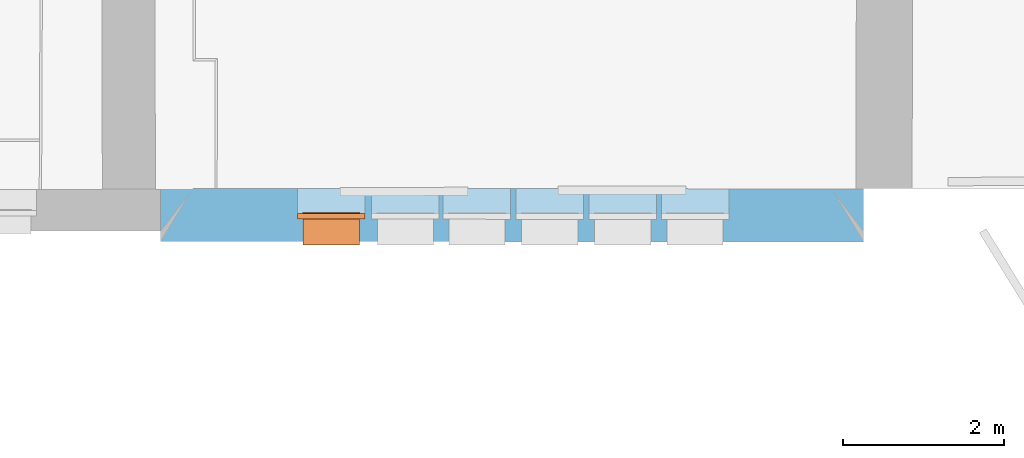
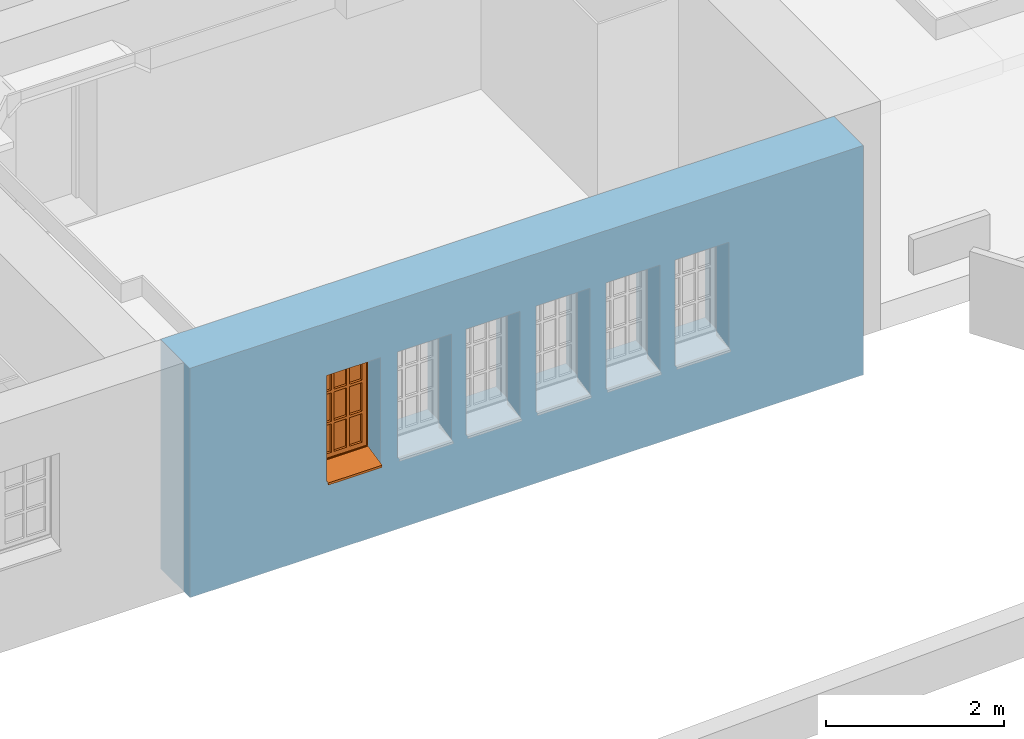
# One storey, part 81 of 196: 1 proxy, 6 openings, plus 1 element that does not belong to this part.
"""IFC2X3 building model written with IfcOpenShell, lengths in metres."""

from ifc_helpers import new_model, entity, si_unit, converted_unit, derived_unit, money_unit, direction, frame, origin_with_axes, origin_2d_with_axis, place, context, subcontext, project, spatial, polyline, rectangle, outline, extrude, boolean, open_shell, faceted_brep, surface_model, material, type_object, element, fill, save


model = new_model("IFC2X3")

# Units and contexts
model_context = context("Model", 3, precision=1e-05, world=origin_with_axes(), true_north=direction((0.0, 1.0)))
body_context = subcontext(model_context, "Body", "Model", "MODEL_VIEW")
ifc_project = project(units=[si_unit("LENGTHUNIT", "METRE"), si_unit("AREAUNIT", "SQUARE_METRE"), si_unit("VOLUMEUNIT", "CUBIC_METRE"), converted_unit("PLANEANGLEUNIT", "DEGREE", entity("IfcPlaneAngleMeasure", 0.0174532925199), si_unit("PLANEANGLEUNIT", "RADIAN"), dimensions=[0, 0, 0, 0, 0, 0, 0]), money_unit("EUR"), converted_unit("TIMEUNIT", "Year", entity("IfcTimeMeasure", 31556926.0), si_unit("TIMEUNIT", "SECOND"), dimensions=[0, 0, 1, 0, 0, 0, 0]), si_unit("MASSUNIT", "GRAM", prefix="KILO"), si_unit("THERMODYNAMICTEMPERATUREUNIT", "DEGREE_CELSIUS"), si_unit("LUMINOUSINTENSITYUNIT", "LUMEN"), si_unit("ENERGYUNIT", "JOULE", prefix="MEGA"), derived_unit("THERMALCONDUCTANCEUNIT", [(si_unit("POWERUNIT", "WATT"), 1), (si_unit("LENGTHUNIT", "METRE"), -1), (si_unit("THERMODYNAMICTEMPERATUREUNIT", "KELVIN"), -1)]), derived_unit("SPECIFICHEATCAPACITYUNIT", [(si_unit("ENERGYUNIT", "JOULE"), 1), (si_unit("MASSUNIT", "GRAM", prefix="KILO"), -1), (si_unit("THERMODYNAMICTEMPERATUREUNIT", "KELVIN"), -1)]), derived_unit("MASSDENSITYUNIT", [(si_unit("MASSUNIT", "GRAM", prefix="KILO"), 1), (si_unit("VOLUMEUNIT", "CUBIC_METRE"), -1)])], contexts=[model_context])

# Site, building, storey
site_placement = place(None, origin_with_axes())
site = spatial("IfcSite", under=ifc_project, at=site_placement, Name="Gelände", CompositionType="ELEMENT")
building_placement = place(site_placement, origin_with_axes())
building = spatial("IfcBuilding", under=site, at=building_placement, Name="Gebäude", CompositionType="ELEMENT")
storey_placement = place(building_placement, frame((0.0, 0.0, -3.0), z_axis=(0.0, 0.0, 1.0), x_axis=(1.0, 0.0, 0.0)))
storey = spatial("IfcBuildingStorey", under=building, at=storey_placement, Name="KELLERGESCHOSS", CompositionType="ELEMENT", Elevation=-3.0)

# Wall, openings, proxy
ifc_material = material(Name="05_ALLGEMEIN - TRAGENDE BAUTEILE")
wall_type = type_object("IfcWallType", Name="05_ALLGEMEIN - TRAGENDE BAUTEILE 660", PredefinedType="ELEMENTEDWALL")
wall_placement = place(storey_placement, frame((3.68030708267, 9.80941916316, -0.36), z_axis=(0.0, 0.0, 1.0), x_axis=(0.999999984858, -0.000174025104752, 0.0)))
wall = element("IfcWall", 1, at=wall_placement, inside=storey, type_object=wall_type, material=ifc_material, Name="Wand-032", ObjectType="ELEMENTEDWALL", context=body_context, shape_type="CSG", body=[
    boolean("DIFFERENCE", extrude(outline(polyline([(0.0, 0.0), (8.74672447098, 0.0), (8.74672447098, 0.66), (0.0, 0.66), (0.0, 0.0)])), origin_with_axes(), (0.0, 0.0, 1.0), 3.15), faceted_brep([(8.36400803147, 0.66, 3.15), (8.36400803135, 0.66, 3.065), (8.74672447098, 0.66, 3.065), (8.74672447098, 0.66, 0.0), (0.0, 0.66, 0.0), (0.0, 0.66, 3.15), (0.396377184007, 0.651638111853, 3.15), (0.396377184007, 0.651638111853, 0.0), (8.3467354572, 0.659981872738, 0.0), (8.3467354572, 0.659981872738, 3.065), (8.74672447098, 0.0, 3.065), (8.74672447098, 0.0, 0.0), (0.0, 0.0, 0.0), (0.0, 0.0, 3.15)], [[[0, 1, 2, 3, 4, 5]], [[1, 0, 6, 7, 8, 9]], [[10, 2, 1, 9]], [[10, 11, 3, 2]], [[7, 12, 4, 3, 11, 8]], [[12, 13, 5, 4]], [[6, 0, 5, 13]], [[6, 13, 12, 7]], [[11, 10, 9, 8]]])),
])
opening_1_placement = place(wall_placement, frame((6.65087656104, 0.0, 0.977921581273), z_axis=(0.0, 0.0, 1.0), x_axis=(1.0, 0.0, 0.0)))
element("IfcOpeningElement", 2, at=opening_1_placement, cuts=wall, Name="Fenster-015", context=body_context, shape_type="SweptSolid", body=[
    extrude(rectangle(XDim=0.840207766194, YDim=1.52470991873, at=origin_2d_with_axis()), frame((0.0, 0.28, 0.762354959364), z_axis=(0.0, -1.0, 0.0), x_axis=(1.0, 0.0, 0.0)), (0.0, 0.0, -1.0), 1.04),
    extrude(rectangle(XDim=0.700207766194, YDim=1.45470991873, at=origin_2d_with_axis()), frame((0.0, 0.28, 0.727354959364), z_axis=(0.0, 1.0, 0.0), x_axis=(1.0, 0.0, 0.0)), (0.0, 0.0, -1.0), 0.94),
])
opening_2_placement = place(wall_placement, frame((5.75227144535, 0.0, 0.977921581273), z_axis=(0.0, 0.0, 1.0), x_axis=(1.0, 0.0, 0.0)))
element("IfcOpeningElement", 3, at=opening_2_placement, cuts=wall, Name="Fenster-015", context=body_context, shape_type="SweptSolid", body=[
    extrude(rectangle(XDim=0.840207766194, YDim=1.52470991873, at=origin_2d_with_axis()), frame((0.0, 0.28, 0.762354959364), z_axis=(0.0, -1.0, 0.0), x_axis=(1.0, 0.0, 0.0)), (0.0, 0.0, -1.0), 1.04),
    extrude(rectangle(XDim=0.700207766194, YDim=1.45470991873, at=origin_2d_with_axis()), frame((0.0, 0.28, 0.727354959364), z_axis=(0.0, 1.0, 0.0), x_axis=(1.0, 0.0, 0.0)), (0.0, 0.0, -1.0), 0.94),
])
opening_3_placement = place(wall_placement, frame((2.12414616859, 0.0, 0.977921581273), z_axis=(0.0, 0.0, 1.0), x_axis=(1.0, 0.0, 0.0)))
opening_3 = element("IfcOpeningElement", 4, at=opening_3_placement, cuts=wall, Name="Fenster-015", context=body_context, shape_type="SweptSolid", body=[
    extrude(rectangle(XDim=0.840207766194, YDim=1.52470991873, at=origin_2d_with_axis()), frame((0.0, 0.28, 0.762354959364), z_axis=(0.0, -1.0, 0.0), x_axis=(1.0, 0.0, 0.0)), (0.0, 0.0, -1.0), 1.04),
    extrude(rectangle(XDim=0.700207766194, YDim=1.45470991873, at=origin_2d_with_axis()), frame((0.0, 0.28, 0.727354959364), z_axis=(0.0, 1.0, 0.0), x_axis=(1.0, 0.0, 0.0)), (0.0, 0.0, -1.0), 0.94),
])
opening_4_placement = place(wall_placement, frame((3.04781651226, 0.0, 0.977921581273), z_axis=(0.0, 0.0, 1.0), x_axis=(1.0, 0.0, 0.0)))
element("IfcOpeningElement", 5, at=opening_4_placement, cuts=wall, Name="Fenster-015", context=body_context, shape_type="SweptSolid", body=[
    extrude(rectangle(XDim=0.840207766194, YDim=1.52470991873, at=origin_2d_with_axis()), frame((0.0, 0.28, 0.762354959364), z_axis=(0.0, -1.0, 0.0), x_axis=(1.0, 0.0, 0.0)), (0.0, 0.0, -1.0), 1.04),
    extrude(rectangle(XDim=0.700207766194, YDim=1.45470991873, at=origin_2d_with_axis()), frame((0.0, 0.28, 0.727354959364), z_axis=(0.0, 1.0, 0.0), x_axis=(1.0, 0.0, 0.0)), (0.0, 0.0, -1.0), 0.94),
])
opening_5_placement = place(wall_placement, frame((3.9368208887, 0.0, 0.977921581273), z_axis=(0.0, 0.0, 1.0), x_axis=(1.0, 0.0, 0.0)))
element("IfcOpeningElement", 6, at=opening_5_placement, cuts=wall, Name="Fenster-015", context=body_context, shape_type="SweptSolid", body=[
    extrude(rectangle(XDim=0.840207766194, YDim=1.52470991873, at=origin_2d_with_axis()), frame((0.0, 0.28, 0.762354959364), z_axis=(0.0, -1.0, 0.0), x_axis=(1.0, 0.0, 0.0)), (0.0, 0.0, -1.0), 1.04),
    extrude(rectangle(XDim=0.700207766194, YDim=1.45470991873, at=origin_2d_with_axis()), frame((0.0, 0.28, 0.727354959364), z_axis=(0.0, 1.0, 0.0), x_axis=(1.0, 0.0, 0.0)), (0.0, 0.0, -1.0), 0.94),
])
opening_6_placement = place(wall_placement, frame((4.8431156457, 0.0, 0.977921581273), z_axis=(0.0, 0.0, 1.0), x_axis=(1.0, 0.0, 0.0)))
element("IfcOpeningElement", 7, at=opening_6_placement, cuts=wall, Name="Fenster-015", context=body_context, shape_type="SweptSolid", body=[
    extrude(rectangle(XDim=0.840207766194, YDim=1.52470991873, at=origin_2d_with_axis()), frame((0.0, 0.28, 0.762354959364), z_axis=(0.0, -1.0, 0.0), x_axis=(1.0, 0.0, 0.0)), (0.0, 0.0, -1.0), 1.04),
    extrude(rectangle(XDim=0.700207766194, YDim=1.45470991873, at=origin_2d_with_axis()), frame((0.0, 0.28, 0.727354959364), z_axis=(0.0, 1.0, 0.0), x_axis=(1.0, 0.0, 0.0)), (0.0, 0.0, -1.0), 0.94),
])
building_element_proxy_type = type_object("IfcBuildingElementProxyType", Name="1-Flügelfenster 25", PredefinedType="NOTDEFINED")
proxy_placement = place(opening_3_placement, frame((-0.420103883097, 0.0, 0.0), z_axis=(0.0, 0.0, 1.0), x_axis=(1.0, 0.0, 0.0)))
proxy = element("IfcBuildingElementProxy", 8, at=proxy_placement, inside=storey, type_object=building_element_proxy_type, Name="Fenster-015", context=body_context, shape_type="SurfaceModel", body=[
    surface_model("IfcShellBasedSurfaceModel", [(0.07, 0.279, 0.08), (0.07, 0.279, 0.07), (0.770207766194, 0.279, 0.07), (0.770207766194, 0.279, 0.08), (0.07, -0.04, 0.00142857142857), (0.770207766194, -0.04, 0.00142857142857), (0.07, -0.04, -0.0285714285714), (0.770207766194, -0.04, -0.0285714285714), (0.07, -0.025, -0.0135714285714), (0.770207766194, -0.025, -0.0135714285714)], [open_shell([[[0, 1, 2, 3]], [[1, 4, 5, 2]], [[4, 6, 7, 5]], [[6, 8, 9, 7]]])]),
    faceted_brep([(0.07, 0.28, 0.0689771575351), (0.07, 0.0, 0.00878906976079), (0.770207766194, 0.0, 0.00878906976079), (0.770207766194, 0.28, 0.0689771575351), (0.07, 0.28, 0.0), (0.07, 0.0, 0.0), (0.770207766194, 0.0, 0.0), (0.770207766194, 0.28, 0.0)], [[[0, 1, 2, 3]], [[0, 4, 5, 1]], [[1, 5, 6, 2]], [[3, 2, 6, 7]], [[4, 0, 3, 7]], [[5, 4, 7, 6]]]),
    faceted_brep([(0.0, 0.28, 0.0), (0.0, 0.35, 0.0), (0.08, 0.35, 0.08), (0.08, 0.28, 0.08), (0.0, 0.28, 1.52470991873), (0.0, 0.35, 1.52470991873), (0.08, 0.35, 1.44470991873), (0.08, 0.28, 1.44470991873)], [[[0, 1, 2, 3]], [[4, 5, 1, 0]], [[1, 5, 6, 2]], [[3, 2, 6, 7]], [[0, 3, 7, 4]], [[7, 6, 5, 4]]]),
    faceted_brep([(0.840207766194, 0.28, 0.0), (0.840207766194, 0.35, 0.0), (0.840207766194, 0.35, 1.52470991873), (0.840207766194, 0.28, 1.52470991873), (0.760207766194, 0.28, 0.08), (0.760207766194, 0.35, 0.08), (0.760207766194, 0.35, 1.44470991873), (0.760207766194, 0.28, 1.44470991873)], [[[0, 1, 2, 3]], [[4, 5, 1, 0]], [[1, 5, 6, 2]], [[3, 2, 6, 7]], [[0, 3, 7, 4]], [[7, 6, 5, 4]]]),
    faceted_brep([(0.0, 0.28, 0.0), (0.0, 0.35, 0.0), (0.840207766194, 0.35, 0.0), (0.840207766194, 0.28, 0.0), (0.08, 0.28, 0.08), (0.08, 0.35, 0.08), (0.420103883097, 0.35, 0.08), (0.760207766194, 0.35, 0.08), (0.760207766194, 0.28, 0.08), (0.420103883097, 0.28, 0.08)], [[[0, 1, 2, 3]], [[4, 5, 1, 0]], [[1, 5, 6, 7, 2]], [[3, 2, 7, 8]], [[0, 3, 8, 9, 4]], [[9, 6, 5, 4]], [[8, 7, 6, 9]]]),
    faceted_brep([(0.0, 0.28, 1.52470991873), (0.0, 0.35, 1.52470991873), (0.08, 0.35, 1.44470991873), (0.08, 0.28, 1.44470991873), (0.840207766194, 0.28, 1.52470991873), (0.840207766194, 0.35, 1.52470991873), (0.760207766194, 0.35, 1.44470991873), (0.420103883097, 0.35, 1.44470991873), (0.420103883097, 0.28, 1.44470991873), (0.760207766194, 0.28, 1.44470991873)], [[[0, 1, 2, 3]], [[4, 5, 1, 0]], [[1, 5, 6, 7, 2]], [[3, 2, 7, 8]], [[0, 3, 8, 9, 4]], [[9, 6, 5, 4]], [[8, 7, 6, 9]]]),
    faceted_brep([(0.06, 0.35, 0.06), (0.06, 0.363, 0.06), (0.14, 0.363, 0.14), (0.14, 0.35, 0.14), (0.06, 0.35, 1.46470991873), (0.06, 0.363, 1.46470991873), (0.14, 0.363, 1.38470991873), (0.14, 0.35, 1.38470991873)], [[[0, 1, 2, 3]], [[4, 5, 1, 0]], [[1, 5, 6, 2]], [[3, 2, 6, 7]], [[0, 3, 7, 4]], [[7, 6, 5, 4]]]),
    faceted_brep([(0.780207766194, 0.35, 0.06), (0.700207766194, 0.35, 0.14), (0.700207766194, 0.363, 0.14), (0.780207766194, 0.363, 0.06), (0.780207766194, 0.35, 1.46470991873), (0.700207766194, 0.35, 1.38470991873), (0.700207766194, 0.363, 1.38470991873), (0.780207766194, 0.363, 1.46470991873)], [[[0, 1, 2, 3]], [[0, 4, 5, 1]], [[1, 5, 6, 2]], [[3, 2, 6, 7]], [[4, 0, 3, 7]], [[5, 4, 7, 6]]]),
    faceted_brep([(0.06, 0.35, 0.06), (0.06, 0.363, 0.06), (0.780207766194, 0.363, 0.06), (0.780207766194, 0.35, 0.06), (0.14, 0.35, 0.14), (0.14, 0.363, 0.14), (0.700207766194, 0.363, 0.14), (0.700207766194, 0.35, 0.14)], [[[0, 1, 2, 3]], [[4, 5, 1, 0]], [[1, 5, 6, 2]], [[3, 2, 6, 7]], [[0, 3, 7, 4]], [[7, 6, 5, 4]]]),
    faceted_brep([(0.06, 0.35, 1.46470991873), (0.780207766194, 0.35, 1.46470991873), (0.780207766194, 0.363, 1.46470991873), (0.06, 0.363, 1.46470991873), (0.14, 0.35, 1.38470991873), (0.700207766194, 0.35, 1.38470991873), (0.700207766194, 0.363, 1.38470991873), (0.14, 0.363, 1.38470991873)], [[[0, 1, 2, 3]], [[0, 4, 5, 1]], [[1, 5, 6, 2]], [[3, 2, 6, 7]], [[4, 0, 3, 7]], [[5, 4, 7, 6]]]),
    faceted_brep([(0.08, 0.293, 0.08), (0.08, 0.35, 0.08), (0.14, 0.35, 0.14), (0.14, 0.293, 0.14), (0.08, 0.293, 1.44470991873), (0.08, 0.35, 1.44470991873), (0.14, 0.35, 1.38470991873), (0.14, 0.293, 1.38470991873)], [[[0, 1, 2, 3]], [[4, 5, 1, 0]], [[1, 5, 6, 2]], [[3, 2, 6, 7]], [[0, 3, 7, 4]], [[7, 6, 5, 4]]]),
    faceted_brep([(0.760207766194, 0.293, 0.08), (0.700207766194, 0.293, 0.14), (0.700207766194, 0.35, 0.14), (0.760207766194, 0.35, 0.08), (0.760207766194, 0.293, 1.44470991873), (0.700207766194, 0.293, 1.38470991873), (0.700207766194, 0.35, 1.38470991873), (0.760207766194, 0.35, 1.44470991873)], [[[0, 1, 2, 3]], [[0, 4, 5, 1]], [[1, 5, 6, 2]], [[3, 2, 6, 7]], [[4, 0, 3, 7]], [[5, 4, 7, 6]]]),
    faceted_brep([(0.08, 0.293, 0.08), (0.08, 0.35, 0.08), (0.760207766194, 0.35, 0.08), (0.760207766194, 0.293, 0.08), (0.14, 0.293, 0.14), (0.14, 0.35, 0.14), (0.700207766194, 0.35, 0.14), (0.700207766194, 0.293, 0.14)], [[[0, 1, 2, 3]], [[4, 5, 1, 0]], [[1, 5, 6, 2]], [[3, 2, 6, 7]], [[0, 3, 7, 4]], [[7, 6, 5, 4]]]),
    faceted_brep([(0.08, 0.293, 1.44470991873), (0.760207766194, 0.293, 1.44470991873), (0.760207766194, 0.35, 1.44470991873), (0.08, 0.35, 1.44470991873), (0.14, 0.293, 1.38470991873), (0.700207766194, 0.293, 1.38470991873), (0.700207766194, 0.35, 1.38470991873), (0.14, 0.35, 1.38470991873)], [[[0, 1, 2, 3]], [[0, 4, 5, 1]], [[1, 5, 6, 2]], [[3, 2, 6, 7]], [[4, 0, 3, 7]], [[5, 4, 7, 6]]]),
    faceted_brep([(0.303402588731, 0.293, 0.14), (0.303402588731, 0.328, 0.14), (0.338402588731, 0.328, 0.14), (0.338402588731, 0.293, 0.14), (0.303402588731, 0.293, 1.38470991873), (0.303402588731, 0.328, 1.38470991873), (0.338402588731, 0.328, 1.38470991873), (0.338402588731, 0.293, 1.38470991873)], [[[0, 1, 2, 3]], [[4, 5, 1, 0]], [[1, 5, 6, 2]], [[3, 2, 6, 7]], [[0, 3, 7, 4]], [[7, 6, 5, 4]]]),
    faceted_brep([(0.303402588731, 0.328, 0.14), (0.303402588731, 0.363, 0.14), (0.338402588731, 0.363, 0.14), (0.338402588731, 0.328, 0.14), (0.303402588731, 0.328, 1.38470991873), (0.303402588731, 0.363, 1.38470991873), (0.338402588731, 0.363, 1.38470991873), (0.338402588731, 0.328, 1.38470991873)], [[[0, 1, 2, 3]], [[4, 5, 1, 0]], [[1, 5, 6, 2]], [[3, 2, 6, 7]], [[0, 3, 7, 4]], [[7, 6, 5, 4]]]),
    faceted_brep([(0.501805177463, 0.293, 0.14), (0.501805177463, 0.328, 0.14), (0.536805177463, 0.328, 0.14), (0.536805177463, 0.293, 0.14), (0.501805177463, 0.293, 1.38470991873), (0.501805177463, 0.328, 1.38470991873), (0.536805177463, 0.328, 1.38470991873), (0.536805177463, 0.293, 1.38470991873)], [[[0, 1, 2, 3]], [[4, 5, 1, 0]], [[1, 5, 6, 2]], [[3, 2, 6, 7]], [[0, 3, 7, 4]], [[7, 6, 5, 4]]]),
    faceted_brep([(0.501805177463, 0.328, 0.14), (0.501805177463, 0.363, 0.14), (0.536805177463, 0.363, 0.14), (0.536805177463, 0.328, 0.14), (0.501805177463, 0.328, 1.38470991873), (0.501805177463, 0.363, 1.38470991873), (0.536805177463, 0.363, 1.38470991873), (0.536805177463, 0.328, 1.38470991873)], [[[0, 1, 2, 3]], [[4, 5, 1, 0]], [[1, 5, 6, 2]], [[3, 2, 6, 7]], [[0, 3, 7, 4]], [[7, 6, 5, 4]]]),
    faceted_brep([(0.501805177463, 0.293, 0.531569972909), (0.501805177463, 0.293, 0.566569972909), (0.338402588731, 0.293, 0.566569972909), (0.338402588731, 0.293, 0.531569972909), (0.501805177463, 0.328, 0.566569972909), (0.501805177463, 0.328, 0.531569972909), (0.338402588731, 0.328, 0.566569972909), (0.338402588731, 0.328, 0.531569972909)], [[[0, 1, 2, 3]], [[4, 1, 0, 5]], [[1, 4, 6, 2]], [[2, 6, 7, 3]], [[5, 0, 3, 7]], [[4, 5, 7, 6]]]),
    faceted_brep([(0.14, 0.293, 0.566569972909), (0.14, 0.293, 0.531569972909), (0.303402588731, 0.293, 0.531569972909), (0.303402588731, 0.293, 0.566569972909), (0.14, 0.328, 0.566569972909), (0.14, 0.328, 0.531569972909), (0.303402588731, 0.328, 0.531569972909), (0.303402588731, 0.328, 0.566569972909)], [[[0, 1, 2, 3]], [[1, 0, 4, 5]], [[1, 5, 6, 2]], [[2, 6, 7, 3]], [[4, 0, 3, 7]], [[5, 4, 7, 6]]]),
    faceted_brep([(0.536805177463, 0.328, 0.566569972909), (0.536805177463, 0.293, 0.566569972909), (0.700207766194, 0.293, 0.566569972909), (0.700207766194, 0.328, 0.566569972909), (0.536805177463, 0.293, 0.531569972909), (0.536805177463, 0.328, 0.531569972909), (0.700207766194, 0.293, 0.531569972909), (0.700207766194, 0.328, 0.531569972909)], [[[0, 1, 2, 3]], [[4, 1, 0, 5]], [[1, 4, 6, 2]], [[3, 2, 6, 7]], [[5, 0, 3, 7]], [[4, 5, 7, 6]]]),
    faceted_brep([(0.501805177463, 0.328, 0.531569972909), (0.501805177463, 0.328, 0.566569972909), (0.338402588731, 0.328, 0.566569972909), (0.338402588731, 0.328, 0.531569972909), (0.501805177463, 0.363, 0.566569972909), (0.501805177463, 0.363, 0.531569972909), (0.338402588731, 0.363, 0.566569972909), (0.338402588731, 0.363, 0.531569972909)], [[[0, 1, 2, 3]], [[4, 1, 0, 5]], [[1, 4, 6, 2]], [[2, 6, 7, 3]], [[5, 0, 3, 7]], [[4, 5, 7, 6]]]),
    faceted_brep([(0.14, 0.328, 0.566569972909), (0.14, 0.328, 0.531569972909), (0.303402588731, 0.328, 0.531569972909), (0.303402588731, 0.328, 0.566569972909), (0.14, 0.363, 0.566569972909), (0.14, 0.363, 0.531569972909), (0.303402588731, 0.363, 0.531569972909), (0.303402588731, 0.363, 0.566569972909)], [[[0, 1, 2, 3]], [[1, 0, 4, 5]], [[1, 5, 6, 2]], [[2, 6, 7, 3]], [[4, 0, 3, 7]], [[5, 4, 7, 6]]]),
    faceted_brep([(0.536805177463, 0.363, 0.566569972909), (0.536805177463, 0.328, 0.566569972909), (0.700207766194, 0.328, 0.566569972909), (0.700207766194, 0.363, 0.566569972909), (0.536805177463, 0.328, 0.531569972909), (0.536805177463, 0.363, 0.531569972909), (0.700207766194, 0.328, 0.531569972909), (0.700207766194, 0.363, 0.531569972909)], [[[0, 1, 2, 3]], [[4, 1, 0, 5]], [[1, 4, 6, 2]], [[3, 2, 6, 7]], [[5, 0, 3, 7]], [[4, 5, 7, 6]]]),
    faceted_brep([(0.501805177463, 0.293, 0.958139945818), (0.501805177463, 0.293, 0.993139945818), (0.338402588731, 0.293, 0.993139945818), (0.338402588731, 0.293, 0.958139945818), (0.501805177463, 0.328, 0.993139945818), (0.501805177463, 0.328, 0.958139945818), (0.338402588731, 0.328, 0.993139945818), (0.338402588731, 0.328, 0.958139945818)], [[[0, 1, 2, 3]], [[4, 1, 0, 5]], [[1, 4, 6, 2]], [[2, 6, 7, 3]], [[5, 0, 3, 7]], [[4, 5, 7, 6]]]),
    faceted_brep([(0.14, 0.293, 0.993139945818), (0.14, 0.293, 0.958139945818), (0.303402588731, 0.293, 0.958139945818), (0.303402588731, 0.293, 0.993139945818), (0.14, 0.328, 0.993139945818), (0.14, 0.328, 0.958139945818), (0.303402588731, 0.328, 0.958139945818), (0.303402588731, 0.328, 0.993139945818)], [[[0, 1, 2, 3]], [[1, 0, 4, 5]], [[1, 5, 6, 2]], [[2, 6, 7, 3]], [[4, 0, 3, 7]], [[5, 4, 7, 6]]]),
    faceted_brep([(0.536805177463, 0.328, 0.993139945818), (0.536805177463, 0.293, 0.993139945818), (0.700207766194, 0.293, 0.993139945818), (0.700207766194, 0.328, 0.993139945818), (0.536805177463, 0.293, 0.958139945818), (0.536805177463, 0.328, 0.958139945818), (0.700207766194, 0.293, 0.958139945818), (0.700207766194, 0.328, 0.958139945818)], [[[0, 1, 2, 3]], [[4, 1, 0, 5]], [[1, 4, 6, 2]], [[3, 2, 6, 7]], [[5, 0, 3, 7]], [[4, 5, 7, 6]]]),
    faceted_brep([(0.501805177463, 0.328, 0.958139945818), (0.501805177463, 0.328, 0.993139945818), (0.338402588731, 0.328, 0.993139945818), (0.338402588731, 0.328, 0.958139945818), (0.501805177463, 0.363, 0.993139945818), (0.501805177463, 0.363, 0.958139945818), (0.338402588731, 0.363, 0.993139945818), (0.338402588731, 0.363, 0.958139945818)], [[[0, 1, 2, 3]], [[4, 1, 0, 5]], [[1, 4, 6, 2]], [[2, 6, 7, 3]], [[5, 0, 3, 7]], [[4, 5, 7, 6]]]),
    faceted_brep([(0.14, 0.328, 0.993139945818), (0.14, 0.328, 0.958139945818), (0.303402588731, 0.328, 0.958139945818), (0.303402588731, 0.328, 0.993139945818), (0.14, 0.363, 0.993139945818), (0.14, 0.363, 0.958139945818), (0.303402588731, 0.363, 0.958139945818), (0.303402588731, 0.363, 0.993139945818)], [[[0, 1, 2, 3]], [[1, 0, 4, 5]], [[1, 5, 6, 2]], [[2, 6, 7, 3]], [[4, 0, 3, 7]], [[5, 4, 7, 6]]]),
    faceted_brep([(0.536805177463, 0.363, 0.993139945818), (0.536805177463, 0.328, 0.993139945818), (0.700207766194, 0.328, 0.993139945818), (0.700207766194, 0.363, 0.993139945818), (0.536805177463, 0.328, 0.958139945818), (0.536805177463, 0.363, 0.958139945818), (0.700207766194, 0.328, 0.958139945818), (0.700207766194, 0.363, 0.958139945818)], [[[0, 1, 2, 3]], [[4, 1, 0, 5]], [[1, 4, 6, 2]], [[3, 2, 6, 7]], [[5, 0, 3, 7]], [[4, 5, 7, 6]]]),
    faceted_brep([(0.303402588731, 0.333, 0.958139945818), (0.303402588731, 0.323, 0.958139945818), (0.303402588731, 0.323, 0.566569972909), (0.303402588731, 0.333, 0.566569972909), (0.14, 0.323, 0.958139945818), (0.14, 0.333, 0.958139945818), (0.14, 0.323, 0.566569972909), (0.14, 0.333, 0.566569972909)], [[[0, 1, 2, 3]], [[4, 1, 0, 5]], [[1, 4, 6, 2]], [[2, 6, 7, 3]], [[5, 0, 3, 7]], [[4, 5, 7, 6]]]),
    faceted_brep([(0.700207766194, 0.323, 0.14), (0.700207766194, 0.333, 0.14), (0.700207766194, 0.333, 0.531569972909), (0.700207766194, 0.323, 0.531569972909), (0.536805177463, 0.323, 0.14), (0.536805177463, 0.333, 0.14), (0.536805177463, 0.333, 0.531569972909), (0.536805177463, 0.323, 0.531569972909)], [[[0, 1, 2, 3]], [[0, 4, 5, 1]], [[1, 5, 6, 2]], [[2, 6, 7, 3]], [[4, 0, 3, 7]], [[5, 4, 7, 6]]]),
    faceted_brep([(0.501805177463, 0.323, 0.14), (0.501805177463, 0.333, 0.14), (0.501805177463, 0.333, 0.531569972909), (0.501805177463, 0.323, 0.531569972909), (0.338402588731, 0.333, 0.14), (0.338402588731, 0.323, 0.14), (0.338402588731, 0.333, 0.531569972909), (0.338402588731, 0.323, 0.531569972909)], [[[0, 1, 2, 3]], [[4, 1, 0, 5]], [[1, 4, 6, 2]], [[2, 6, 7, 3]], [[5, 0, 3, 7]], [[4, 5, 7, 6]]]),
    faceted_brep([(0.303402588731, 0.323, 0.14), (0.303402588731, 0.333, 0.14), (0.303402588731, 0.333, 0.531569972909), (0.303402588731, 0.323, 0.531569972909), (0.14, 0.323, 0.14), (0.14, 0.333, 0.14), (0.14, 0.333, 0.531569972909), (0.14, 0.323, 0.531569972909)], [[[0, 1, 2, 3]], [[0, 4, 5, 1]], [[1, 5, 6, 2]], [[2, 6, 7, 3]], [[4, 0, 3, 7]], [[5, 4, 7, 6]]]),
    faceted_brep([(0.700207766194, 0.333, 0.958139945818), (0.700207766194, 0.323, 0.958139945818), (0.700207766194, 0.323, 0.566569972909), (0.700207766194, 0.333, 0.566569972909), (0.536805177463, 0.323, 0.958139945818), (0.536805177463, 0.333, 0.958139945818), (0.536805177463, 0.323, 0.566569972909), (0.536805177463, 0.333, 0.566569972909)], [[[0, 1, 2, 3]], [[4, 1, 0, 5]], [[1, 4, 6, 2]], [[2, 6, 7, 3]], [[5, 0, 3, 7]], [[4, 5, 7, 6]]]),
    faceted_brep([(0.501805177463, 0.333, 0.958139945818), (0.501805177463, 0.323, 0.958139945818), (0.501805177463, 0.323, 0.566569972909), (0.501805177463, 0.333, 0.566569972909), (0.338402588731, 0.323, 0.958139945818), (0.338402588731, 0.333, 0.958139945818), (0.338402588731, 0.323, 0.566569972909), (0.338402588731, 0.333, 0.566569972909)], [[[0, 1, 2, 3]], [[4, 1, 0, 5]], [[1, 4, 6, 2]], [[2, 6, 7, 3]], [[5, 0, 3, 7]], [[4, 5, 7, 6]]]),
    faceted_brep([(0.14, 0.323, 0.993139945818), (0.303402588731, 0.323, 0.993139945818), (0.303402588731, 0.323, 1.38470991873), (0.14, 0.323, 1.38470991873), (0.303402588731, 0.333, 0.993139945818), (0.14, 0.333, 0.993139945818), (0.303402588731, 0.333, 1.38470991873), (0.14, 0.333, 1.38470991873)], [[[0, 1, 2, 3]], [[4, 1, 0, 5]], [[1, 4, 6, 2]], [[2, 6, 7, 3]], [[5, 0, 3, 7]], [[4, 5, 7, 6]]]),
    faceted_brep([(0.536805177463, 0.323, 0.993139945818), (0.700207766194, 0.323, 0.993139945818), (0.700207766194, 0.323, 1.38470991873), (0.536805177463, 0.323, 1.38470991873), (0.700207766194, 0.333, 0.993139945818), (0.536805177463, 0.333, 0.993139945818), (0.700207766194, 0.333, 1.38470991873), (0.536805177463, 0.333, 1.38470991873)], [[[0, 1, 2, 3]], [[4, 1, 0, 5]], [[1, 4, 6, 2]], [[2, 6, 7, 3]], [[5, 0, 3, 7]], [[4, 5, 7, 6]]]),
    faceted_brep([(0.338402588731, 0.323, 0.993139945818), (0.501805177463, 0.323, 0.993139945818), (0.501805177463, 0.323, 1.38470991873), (0.338402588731, 0.323, 1.38470991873), (0.501805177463, 0.333, 0.993139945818), (0.338402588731, 0.333, 0.993139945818), (0.501805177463, 0.333, 1.38470991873), (0.338402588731, 0.333, 1.38470991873)], [[[0, 1, 2, 3]], [[4, 1, 0, 5]], [[1, 4, 6, 2]], [[7, 3, 2, 6]], [[5, 0, 3, 7]], [[4, 5, 7, 6]]]),
])
fill(opening_3, proxy)

save(model, "model.ifc")
